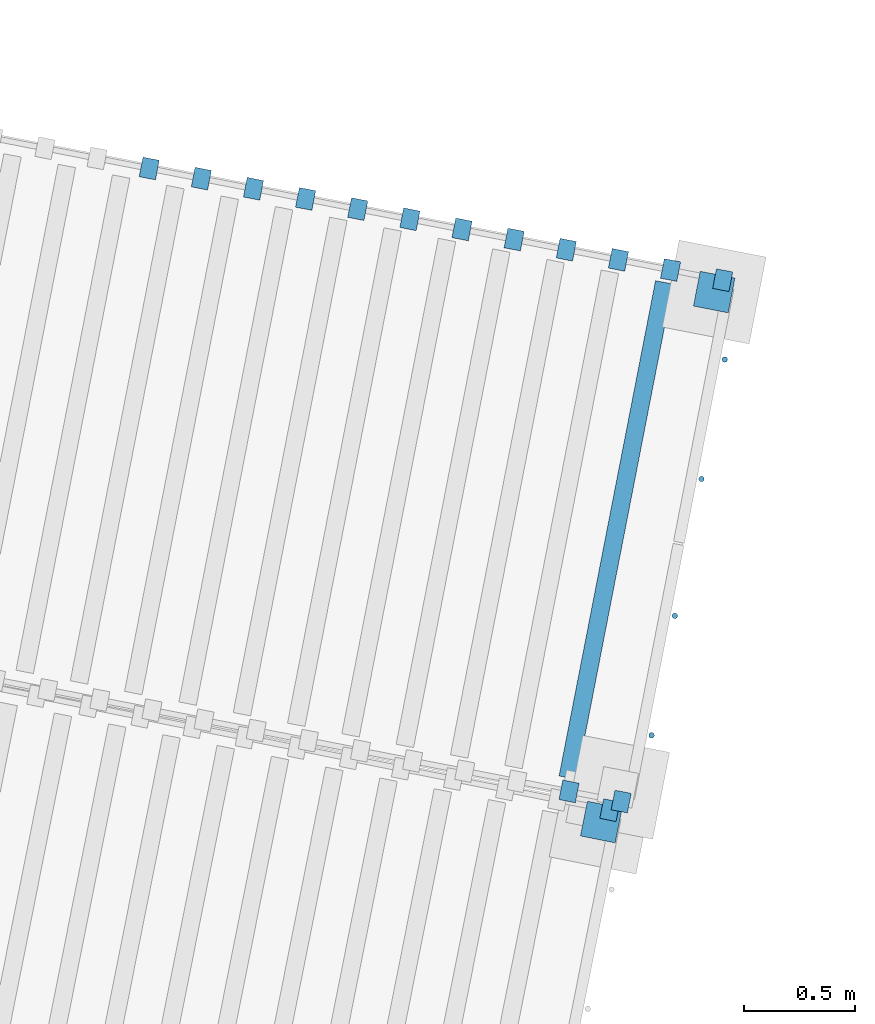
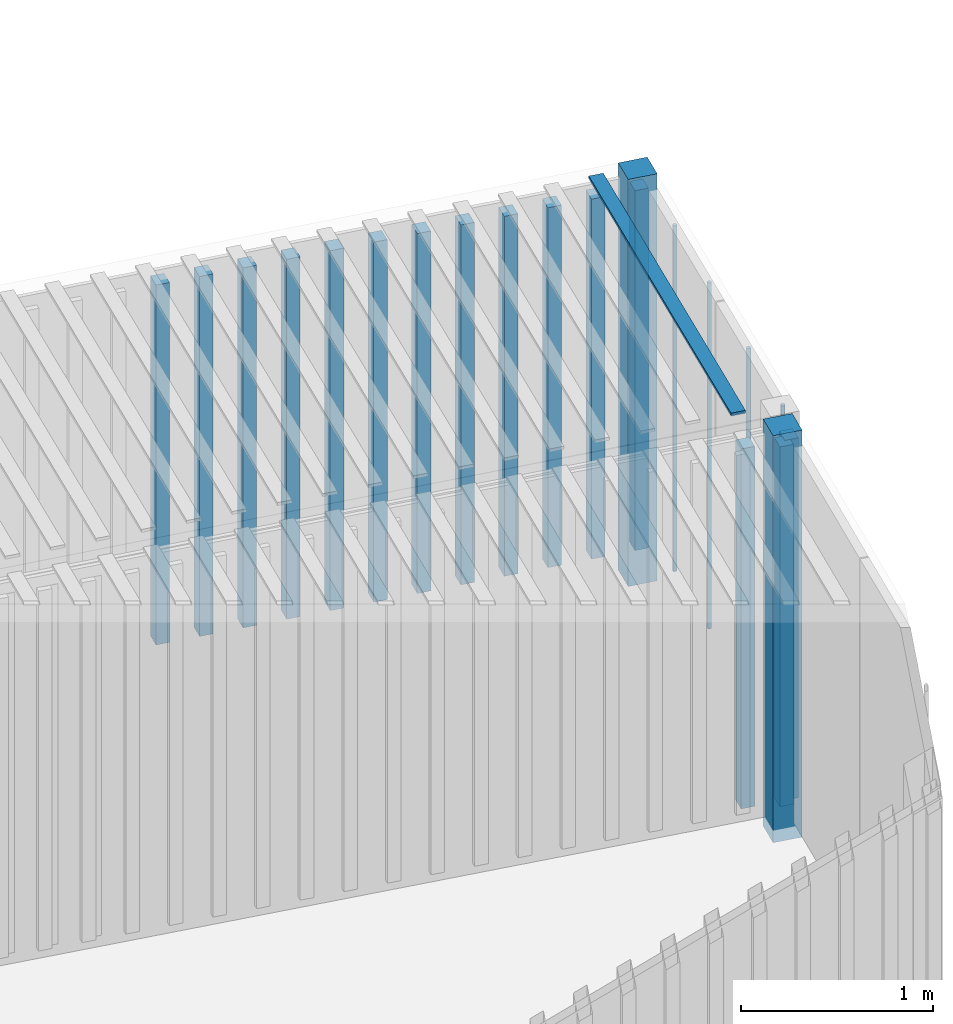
# One storey, part 84 of 142: 22 members, 2 elements without a shape of their own.
"""IFC4 building model written with IfcOpenShell, lengths in metres."""

from ifc_helpers import new_model, si_unit, direction, frame, origin_with_axes, place, context, subcontext, project, spatial, polyline, circle, outline, extrude, material, material_profile, profile_set, profile_usage, type_object, element, aggregate, save


model = new_model("IFC4")

# Units and contexts
model_context = context("Model", 3, precision=1e-05, world=origin_with_axes(), true_north=direction((0.0, 1.0)))
body_context = subcontext(model_context, "Body", "Model", "MODEL_VIEW")
ifc_project = project(units=[si_unit("AREAUNIT", "SQUARE_METRE"), si_unit("VOLUMEUNIT", "CUBIC_METRE"), si_unit("LENGTHUNIT", "METRE")], contexts=[model_context])

# Site, building, storey
site_placement = place(None, origin_with_axes())
site = spatial("IfcSite", under=ifc_project, at=site_placement, Name="Lares · Rua das Mercês · artigo 4771")
building_placement = place(site_placement, frame((15.0, 9.7, 14.65), z_axis=(0.0, 0.0, 1.0), x_axis=(0.989015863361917, -0.147809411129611, 0.0)))
building = spatial("IfcBuilding", under=site, at=building_placement, Name="Casa Sobreposta")
storey_placement = place(building_placement, origin_with_axes())
storey = spatial("IfcBuildingStorey", under=building, at=storey_placement, Name="00 · Habitação e estacionamento", Elevation=14.65)

# Assembly, members
assembly_1_placement = place(storey_placement, frame((-14.4335953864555, 9.04888612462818, 0.0), z_axis=(0.0, 0.0, 1.0), x_axis=(0.999032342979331, -0.0439815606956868, 0.0)))
assembly_1 = element("IfcElementAssembly", 1, at=assembly_1_placement, inside=storey, Name="Contentor existente 1 · 6 m", ObjectType="EXISTING_SHIPPING_CONTAINER", PredefinedType="USERDEFINED")
ifc_material_1 = material(Name="Aço galvanizado / Stahl verzinkt", Category="steel")
ifc_material_profile = material_profile(ifc_material_1, circle(Radius=0.0125))
ifc_profile_set = profile_set([ifc_material_profile], Name="D0.025")
ifc_profile_usage_1 = profile_usage(ifc_profile_set)
member_type = type_object("IfcMemberType", Name="D0.025 / galvanized", PredefinedType="NOTDEFINED", material=ifc_profile_set)
member_1_placement = place(assembly_1_placement, frame((6.025, 0.34, -1.1), z_axis=(0.0, 0.0, 1.0), x_axis=(1.0, 0.0, 0.0)))
member_1 = element("IfcMember", 2, at=member_1_placement, type_object=member_type, material=ifc_profile_usage_1, Name="Contentor · varão de fecho", context=body_context, shape_type="SweptSolid", body=[
    extrude(circle(Radius=0.0125), origin_with_axes(), (0.0, 0.0, 1.0), 2.2),
])
ifc_profile_usage_2 = profile_usage(ifc_profile_set)
member_2_placement = place(assembly_1_placement, frame((6.025, 0.89, -1.1), z_axis=(0.0, 0.0, 1.0), x_axis=(1.0, 0.0, 0.0)))
member_2 = element("IfcMember", 3, at=member_2_placement, type_object=member_type, material=ifc_profile_usage_2, Name="Contentor · varão de fecho", context=body_context, shape_type="SweptSolid", body=[
    extrude(circle(Radius=0.0125), origin_with_axes(), (0.0, 0.0, 1.0), 2.2),
])
ifc_profile_usage_3 = profile_usage(ifc_profile_set)
member_3_placement = place(assembly_1_placement, frame((6.025, 1.52, -1.1), z_axis=(0.0, 0.0, 1.0), x_axis=(1.0, 0.0, 0.0)))
member_3 = element("IfcMember", 4, at=member_3_placement, type_object=member_type, material=ifc_profile_usage_3, Name="Contentor · varão de fecho", context=body_context, shape_type="SweptSolid", body=[
    extrude(circle(Radius=0.0125), origin_with_axes(), (0.0, 0.0, 1.0), 2.2),
])
ifc_profile_usage_4 = profile_usage(ifc_profile_set)
member_4_placement = place(assembly_1_placement, frame((6.025, 2.07, -1.1), z_axis=(0.0, 0.0, 1.0), x_axis=(1.0, 0.0, 0.0)))
member_4 = element("IfcMember", 5, at=member_4_placement, type_object=member_type, material=ifc_profile_usage_4, Name="Contentor · varão de fecho", context=body_context, shape_type="SweptSolid", body=[
    extrude(circle(Radius=0.0125), origin_with_axes(), (0.0, 0.0, 1.0), 2.2),
])
ifc_material_2 = material(Name="Contentor · pintura 1", Category="steel")
member_5_placement = place(assembly_1_placement, frame((0.0, 0.0, -1.3), z_axis=(0.0, 0.0, 1.0), x_axis=(1.0, 0.0, 0.0)))
member_5 = element("IfcMember", 6, at=member_5_placement, material=ifc_material_2, Name="Contentor · canto", context=body_context, shape_type="SweptSolid", body=[
    extrude(outline(polyline([(6.0, 2.28), (6.0, 2.44), (5.84, 2.44), (5.84, 2.28), (6.0, 2.28)])), origin_with_axes(), (0.0, 0.0, 1.0), 2.59),
])
member_6_placement = place(assembly_1_placement, frame((0.0, 0.0, -1.15), z_axis=(0.0, 0.0, 1.0), x_axis=(1.0, 0.0, 0.0)))
member_6 = element("IfcMember", 7, at=member_6_placement, material=ifc_material_2, Name="Contentor · nervura lateral", context=body_context, shape_type="SweptSolid", body=[
    extrude(outline(polyline([(5.745, -0.025), (5.745, 0.065), (5.67, 0.065), (5.67, -0.025), (5.745, -0.025)])), origin_with_axes(), (0.0, 0.0, 1.0), 2.29),
])
member_7_placement = place(assembly_1_placement, frame((0.0, 0.0, -1.15), z_axis=(0.0, 0.0, 1.0), x_axis=(1.0, 0.0, 0.0)))
member_7 = element("IfcMember", 8, at=member_7_placement, material=ifc_material_2, Name="Contentor · nervura lateral", context=body_context, shape_type="SweptSolid", body=[
    extrude(outline(polyline([(5.985, -0.025), (5.985, 0.065), (5.91, 0.065), (5.91, -0.025), (5.985, -0.025)])), origin_with_axes(), (0.0, 0.0, 1.0), 2.29),
])
member_8_placement = place(assembly_1_placement, frame((0.0, 0.0, -1.15), z_axis=(0.0, 0.0, 1.0), x_axis=(1.0, 0.0, 0.0)))
member_8 = element("IfcMember", 9, at=member_8_placement, material=ifc_material_2, Name="Contentor · nervura lateral", context=body_context, shape_type="SweptSolid", body=[
    extrude(outline(polyline([(3.345, 2.375), (3.345, 2.465), (3.27, 2.465), (3.27, 2.375), (3.345, 2.375)])), origin_with_axes(), (0.0, 0.0, 1.0), 2.29),
])
member_9_placement = place(assembly_1_placement, frame((0.0, 0.0, -1.15), z_axis=(0.0, 0.0, 1.0), x_axis=(1.0, 0.0, 0.0)))
member_9 = element("IfcMember", 10, at=member_9_placement, material=ifc_material_2, Name="Contentor · nervura lateral", context=body_context, shape_type="SweptSolid", body=[
    extrude(outline(polyline([(3.585, 2.375), (3.585, 2.465), (3.51, 2.465), (3.51, 2.375), (3.585, 2.375)])), origin_with_axes(), (0.0, 0.0, 1.0), 2.29),
])
member_10_placement = place(assembly_1_placement, frame((0.0, 0.0, -1.15), z_axis=(0.0, 0.0, 1.0), x_axis=(1.0, 0.0, 0.0)))
member_10 = element("IfcMember", 11, at=member_10_placement, material=ifc_material_2, Name="Contentor · nervura lateral", context=body_context, shape_type="SweptSolid", body=[
    extrude(outline(polyline([(3.825, 2.375), (3.825, 2.465), (3.75, 2.465), (3.75, 2.375), (3.825, 2.375)])), origin_with_axes(), (0.0, 0.0, 1.0), 2.29),
])
member_11_placement = place(assembly_1_placement, frame((0.0, 0.0, -1.15), z_axis=(0.0, 0.0, 1.0), x_axis=(1.0, 0.0, 0.0)))
member_11 = element("IfcMember", 12, at=member_11_placement, material=ifc_material_2, Name="Contentor · nervura lateral", context=body_context, shape_type="SweptSolid", body=[
    extrude(outline(polyline([(4.065, 2.375), (4.065, 2.465), (3.99, 2.465), (3.99, 2.375), (4.065, 2.375)])), origin_with_axes(), (0.0, 0.0, 1.0), 2.29),
])
member_12_placement = place(assembly_1_placement, frame((0.0, 0.0, -1.15), z_axis=(0.0, 0.0, 1.0), x_axis=(1.0, 0.0, 0.0)))
member_12 = element("IfcMember", 13, at=member_12_placement, material=ifc_material_2, Name="Contentor · nervura lateral", context=body_context, shape_type="SweptSolid", body=[
    extrude(outline(polyline([(4.305, 2.375), (4.305, 2.465), (4.23, 2.465), (4.23, 2.375), (4.305, 2.375)])), origin_with_axes(), (0.0, 0.0, 1.0), 2.29),
])
member_13_placement = place(assembly_1_placement, frame((0.0, 0.0, -1.15), z_axis=(0.0, 0.0, 1.0), x_axis=(1.0, 0.0, 0.0)))
member_13 = element("IfcMember", 14, at=member_13_placement, material=ifc_material_2, Name="Contentor · nervura lateral", context=body_context, shape_type="SweptSolid", body=[
    extrude(outline(polyline([(4.545, 2.375), (4.545, 2.465), (4.47, 2.465), (4.47, 2.375), (4.545, 2.375)])), origin_with_axes(), (0.0, 0.0, 1.0), 2.29),
])
member_14_placement = place(assembly_1_placement, frame((0.0, 0.0, -1.15), z_axis=(0.0, 0.0, 1.0), x_axis=(1.0, 0.0, 0.0)))
member_14 = element("IfcMember", 15, at=member_14_placement, material=ifc_material_2, Name="Contentor · nervura lateral", context=body_context, shape_type="SweptSolid", body=[
    extrude(outline(polyline([(4.785, 2.375), (4.785, 2.465), (4.71, 2.465), (4.71, 2.375), (4.785, 2.375)])), origin_with_axes(), (0.0, 0.0, 1.0), 2.29),
])
member_15_placement = place(assembly_1_placement, frame((0.0, 0.0, -1.15), z_axis=(0.0, 0.0, 1.0), x_axis=(1.0, 0.0, 0.0)))
member_15 = element("IfcMember", 16, at=member_15_placement, material=ifc_material_2, Name="Contentor · nervura lateral", context=body_context, shape_type="SweptSolid", body=[
    extrude(outline(polyline([(5.025, 2.375), (5.025, 2.465), (4.95, 2.465), (4.95, 2.375), (5.025, 2.375)])), origin_with_axes(), (0.0, 0.0, 1.0), 2.29),
])
member_16_placement = place(assembly_1_placement, frame((0.0, 0.0, -1.15), z_axis=(0.0, 0.0, 1.0), x_axis=(1.0, 0.0, 0.0)))
member_16 = element("IfcMember", 17, at=member_16_placement, material=ifc_material_2, Name="Contentor · nervura lateral", context=body_context, shape_type="SweptSolid", body=[
    extrude(outline(polyline([(5.265, 2.375), (5.265, 2.465), (5.19, 2.465), (5.19, 2.375), (5.265, 2.375)])), origin_with_axes(), (0.0, 0.0, 1.0), 2.29),
])
member_17_placement = place(assembly_1_placement, frame((0.0, 0.0, -1.15), z_axis=(0.0, 0.0, 1.0), x_axis=(1.0, 0.0, 0.0)))
member_17 = element("IfcMember", 18, at=member_17_placement, material=ifc_material_2, Name="Contentor · nervura lateral", context=body_context, shape_type="SweptSolid", body=[
    extrude(outline(polyline([(5.505, 2.375), (5.505, 2.465), (5.43, 2.465), (5.43, 2.375), (5.505, 2.375)])), origin_with_axes(), (0.0, 0.0, 1.0), 2.29),
])
member_18_placement = place(assembly_1_placement, frame((0.0, 0.0, -1.15), z_axis=(0.0, 0.0, 1.0), x_axis=(1.0, 0.0, 0.0)))
member_18 = element("IfcMember", 19, at=member_18_placement, material=ifc_material_2, Name="Contentor · nervura lateral", context=body_context, shape_type="SweptSolid", body=[
    extrude(outline(polyline([(5.745, 2.375), (5.745, 2.465), (5.67, 2.465), (5.67, 2.375), (5.745, 2.375)])), origin_with_axes(), (0.0, 0.0, 1.0), 2.29),
])
member_19_placement = place(assembly_1_placement, frame((0.0, 0.0, -1.15), z_axis=(0.0, 0.0, 1.0), x_axis=(1.0, 0.0, 0.0)))
member_19 = element("IfcMember", 20, at=member_19_placement, material=ifc_material_2, Name="Contentor · nervura lateral", context=body_context, shape_type="SweptSolid", body=[
    extrude(outline(polyline([(5.985, 2.375), (5.985, 2.465), (5.91, 2.465), (5.91, 2.375), (5.985, 2.375)])), origin_with_axes(), (0.0, 0.0, 1.0), 2.29),
])
member_20_placement = place(assembly_1_placement, frame((0.0, 0.0, 1.285), z_axis=(0.0, 0.0, 1.0), x_axis=(1.0, 0.0, 0.0)))
member_20 = element("IfcMember", 21, at=member_20_placement, material=ifc_material_2, Name="Contentor · nervura cobertura", context=body_context, shape_type="SweptSolid", body=[
    extrude(outline(polyline([(5.73, 0.08), (5.73, 2.36), (5.65, 2.36), (5.65, 0.08), (5.73, 0.08)])), origin_with_axes(), (0.0, 0.0, 1.0), 0.018),
])
aggregate(assembly_1, [member_5, member_6, member_7, member_8, member_9, member_10, member_11, member_12, member_13, member_14, member_15, member_16, member_17, member_18, member_19, member_1, member_2, member_3, member_4, member_20])

assembly_2_placement = place(storey_placement, frame((-14.5932944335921, 6.63122214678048, 0.0), z_axis=(0.0, 0.0, 1.0), x_axis=(0.998832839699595, -0.0483007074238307, 0.0)))
assembly_2 = element("IfcElementAssembly", 22, at=assembly_2_placement, inside=storey, Name="Contentor existente 2 · 6 m", ObjectType="EXISTING_SHIPPING_CONTAINER", PredefinedType="USERDEFINED")
ifc_material_3 = material(Name="Contentor · pintura 2", Category="steel")
member_21_placement = place(assembly_2_placement, frame((0.0, 0.0, -1.3), z_axis=(0.0, 0.0, 1.0), x_axis=(1.0, 0.0, 0.0)))
member_21 = element("IfcMember", 23, at=member_21_placement, material=ifc_material_3, Name="Contentor · canto", context=body_context, shape_type="SweptSolid", body=[
    extrude(outline(polyline([(6.0, 2.28), (6.0, 2.44), (5.84, 2.44), (5.84, 2.28), (6.0, 2.28)])), origin_with_axes(), (0.0, 0.0, 1.0), 2.59),
])
member_22_placement = place(assembly_2_placement, frame((0.0, 0.0, -1.15), z_axis=(0.0, 0.0, 1.0), x_axis=(1.0, 0.0, 0.0)))
member_22 = element("IfcMember", 24, at=member_22_placement, material=ifc_material_3, Name="Contentor · nervura lateral", context=body_context, shape_type="SweptSolid", body=[
    extrude(outline(polyline([(5.985, 2.375), (5.985, 2.465), (5.91, 2.465), (5.91, 2.375), (5.985, 2.375)])), origin_with_axes(), (0.0, 0.0, 1.0), 2.29),
])
aggregate(assembly_2, [member_21, member_22])

save(model, "model.ifc")
